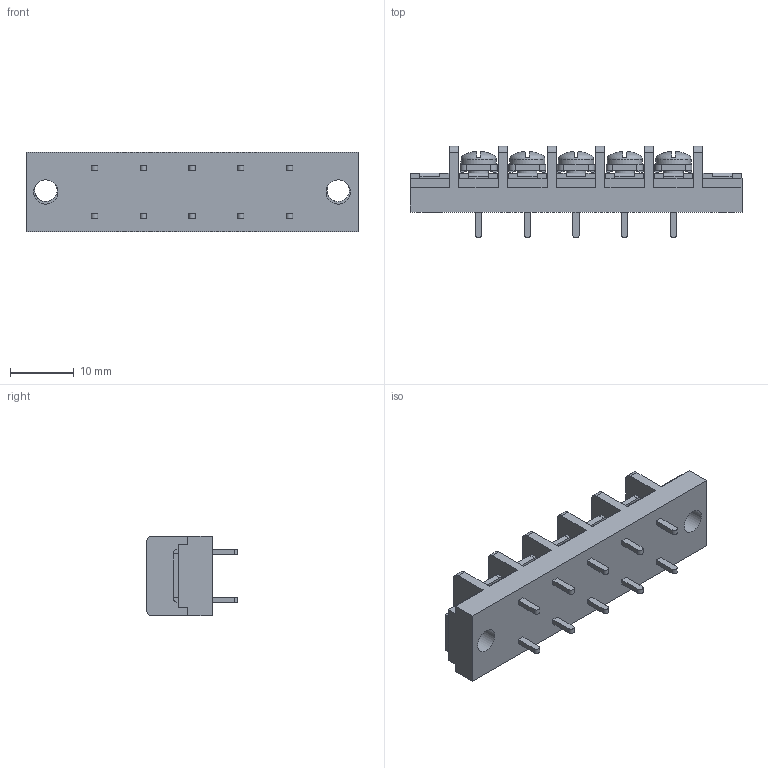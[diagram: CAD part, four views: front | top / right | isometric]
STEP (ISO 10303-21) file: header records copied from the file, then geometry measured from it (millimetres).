
FILE_DESCRIPTION(/* description */ ('Alibre Inc.'),/* implementation_level */ '2;1');
FILE_NAME(/* name */ 'export0',/* time_stamp */ '2015-10-26T18:28:07+09:00',/* author */ (''),/* organization */ (''),/* preprocessor_version */ 'ST-DEVELOPER v14',/* originating_system */ 'Alibre',/* authorisation */ '');
FILE_SCHEMA (('CONFIG_CONTROL_DESIGN'));
Length unit declared in the file: centimetre
Products named in the file (1): ID_1
Bounding box: 51.92 x 14.3 x 12.5 mm (x, y, z)
Volume: 4336.9 mm3; surface area: 4027.1 mm2
Topology: 1 solids, 17 shells, 941 faces, 2526 edges, 1666 vertices
Faces by surface type: plane 727, bspline 104, cylinder 70, cone 20, torus 10, sphere 10
Full cylindrical faces by diameter (mm): 3 x5, 3.5 x2, 3.8 x2, 5.5 x5
Entity records: 27885 total; most frequent: CARTESIAN_POINT 6184, ORIENTED_EDGE 4976, DIRECTION 3312, EDGE_CURVE 2488, VECTOR 1836, LINE 1836, VERTEX_POINT 1652, AXIS2_PLACEMENT_3D 1068
